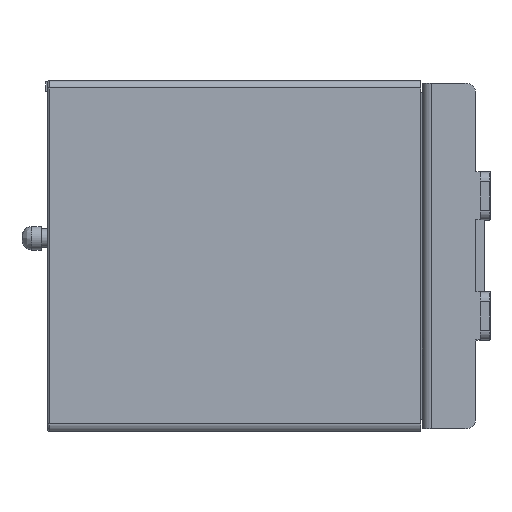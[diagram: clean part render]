
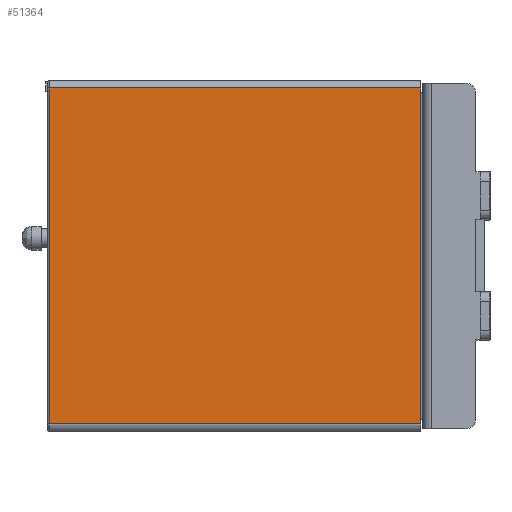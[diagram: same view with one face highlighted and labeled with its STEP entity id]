
A CAD part, left-side view. The second image highlights one B-rep face of the part: STEP entity #51364.
In plain terms, the highlighted planar face has unit normal (-1, 0, 0) as drawn and (0, 0, -1) by its records, which use the part's own axes.
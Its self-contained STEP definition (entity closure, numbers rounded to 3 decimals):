
#580 = CARTESIAN_POINT ( 'NONE',  ( -35., 78.5, -50.5 ) ) ;
#2301 = DIRECTION ( 'NONE',  ( 1., 0., 0. ) ) ;
#3913 = VERTEX_POINT ( 'NONE', #41541 ) ;
#4056 = LINE ( 'NONE', #22435, #33955 ) ;
#11341 = LINE ( 'NONE', #57452, #57287 ) ;
#11781 = PLANE ( 'NONE',  #23156 ) ;
#13654 = CARTESIAN_POINT ( 'NONE',  ( 35., 0.8, -50.5 ) ) ;
#14199 = VERTEX_POINT ( 'NONE', #49007 ) ;
#16141 = EDGE_CURVE ( 'NONE', #16413, #3913, #11341, .T. ) ;
#16413 = VERTEX_POINT ( 'NONE', #13654 ) ;
#16550 = ORIENTED_EDGE ( 'NONE', *, *, #16141, .F. ) ;
#21547 = VERTEX_POINT ( 'NONE', #48828 ) ;
#21847 = FACE_OUTER_BOUND ( 'NONE', #38854, .T. ) ;
#22435 = CARTESIAN_POINT ( 'NONE',  ( 0., 0.8, -50.5 ) ) ;
#23156 = AXIS2_PLACEMENT_3D ( 'NONE', #39863, #58190, #2301 ) ;
#27313 = DIRECTION ( 'NONE',  ( 1., 0., 0. ) ) ;
#30470 = ORIENTED_EDGE ( 'NONE', *, *, #56437, .F. ) ;
#33464 = DIRECTION ( 'NONE',  ( -1., 0., 0. ) ) ;
#33955 = VECTOR ( 'NONE', #27313, 1000. ) ;
#34495 = ORIENTED_EDGE ( 'NONE', *, *, #43510, .F. ) ;
#36807 = ORIENTED_EDGE ( 'NONE', *, *, #40574, .F. ) ;
#38446 = LINE ( 'NONE', #580, #52329 ) ;
#38854 = EDGE_LOOP ( 'NONE', ( #16550, #34495, #30470, #36807 ) ) ;
#39863 = CARTESIAN_POINT ( 'NONE',  ( 36.5, 78.5, -50.5 ) ) ;
#40009 = DIRECTION ( 'NONE',  ( 0., 1., 0. ) ) ;
#40574 = EDGE_CURVE ( 'NONE', #3913, #14199, #47180, .T. ) ;
#41541 = CARTESIAN_POINT ( 'NONE',  ( 35., 78.25, -50.5 ) ) ;
#43510 = EDGE_CURVE ( 'NONE', #21547, #16413, #4056, .T. ) ;
#47180 = LINE ( 'NONE', #51759, #59072 ) ;
#48828 = CARTESIAN_POINT ( 'NONE',  ( -35., 0.8, -50.5 ) ) ;
#49007 = CARTESIAN_POINT ( 'NONE',  ( -35., 78.25, -50.5 ) ) ;
#51364 = ADVANCED_FACE ( 'NONE', ( #21847 ), #11781, .F. ) ;
#51759 = CARTESIAN_POINT ( 'NONE',  ( 36.5, 78.25, -50.5 ) ) ;
#52329 = VECTOR ( 'NONE', #57067, 1000. ) ;
#56437 = EDGE_CURVE ( 'NONE', #14199, #21547, #38446, .T. ) ;
#57067 = DIRECTION ( 'NONE',  ( 0., -1., 0. ) ) ;
#57287 = VECTOR ( 'NONE', #40009, 1000. ) ;
#57452 = CARTESIAN_POINT ( 'NONE',  ( 35., 78.5, -50.5 ) ) ;
#58190 = DIRECTION ( 'NONE',  ( 0., 0., 1. ) ) ;
#59072 = VECTOR ( 'NONE', #33464, 1000. ) ;
